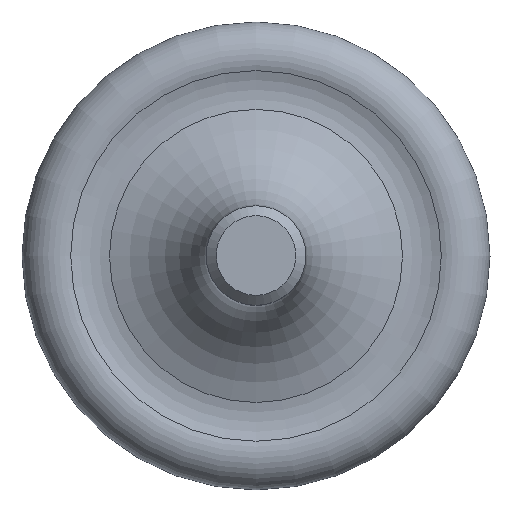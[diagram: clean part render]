
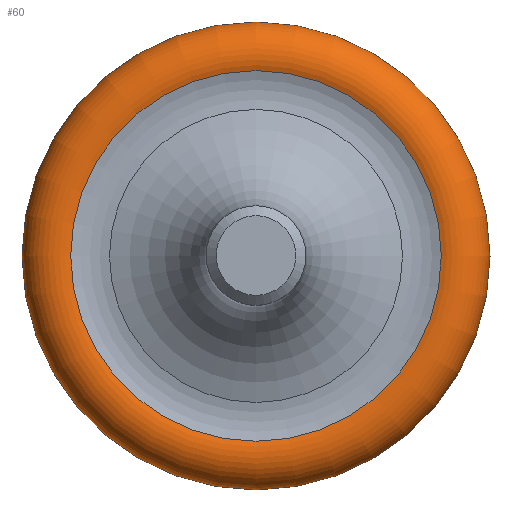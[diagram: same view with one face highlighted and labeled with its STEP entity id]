
A CAD part, top view. The second image highlights one B-rep face of the part: STEP entity #60.
In plain terms, the highlighted toroidal (fillet/blend) face has major radius 20 mm and minor radius 3.5 mm.
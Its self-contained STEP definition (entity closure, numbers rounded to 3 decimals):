
#27=CARTESIAN_POINT('',(-0.,0.,16.716));
#28=DIRECTION('',(-0.,0.,-1.));
#29=DIRECTION('',(-1.,0.,0.));
#30=AXIS2_PLACEMENT_3D('',#27,#28,#29);
#31=TOROIDAL_SURFACE('',#30,20.,3.5);
#32=CARTESIAN_POINT('',(-23.5,-0.,16.716));
#33=VERTEX_POINT('',#32);
#34=CARTESIAN_POINT('',(-0.,0.,16.716));
#35=DIRECTION('',(0.,-0.,1.));
#36=DIRECTION('',(-1.,0.,0.));
#37=AXIS2_PLACEMENT_3D('',#34,#35,#36);
#38=CIRCLE('',#37,23.5);
#39=EDGE_CURVE('',#33,#33,#38,.T.);
#40=ORIENTED_EDGE('',*,*,#39,.T.);
#41=CARTESIAN_POINT('',(-18.611,-0.,19.928));
#42=VERTEX_POINT('',#41);
#43=CARTESIAN_POINT('',(-20.,0.,16.716));
#44=DIRECTION('',(-0.,1.,-0.));
#45=DIRECTION('',(-1.,0.,0.));
#46=AXIS2_PLACEMENT_3D('',#43,#44,#45);
#47=CIRCLE('',#46,3.5);
#48=EDGE_CURVE('',#33,#42,#47,.T.);
#49=ORIENTED_EDGE('',*,*,#48,.T.);
#50=CARTESIAN_POINT('',(-0.,0.,19.928));
#51=DIRECTION('',(-0.,0.,-1.));
#52=DIRECTION('',(-1.,0.,0.));
#53=AXIS2_PLACEMENT_3D('',#50,#51,#52);
#54=CIRCLE('',#53,18.611);
#55=EDGE_CURVE('',#42,#42,#54,.T.);
#56=ORIENTED_EDGE('',*,*,#55,.T.);
#57=ORIENTED_EDGE('',*,*,#48,.F.);
#58=EDGE_LOOP('',(#40,#49,#56,#57));
#59=FACE_BOUND('',#58,.T.);
#60=ADVANCED_FACE('',(#59),#31,.T.);
